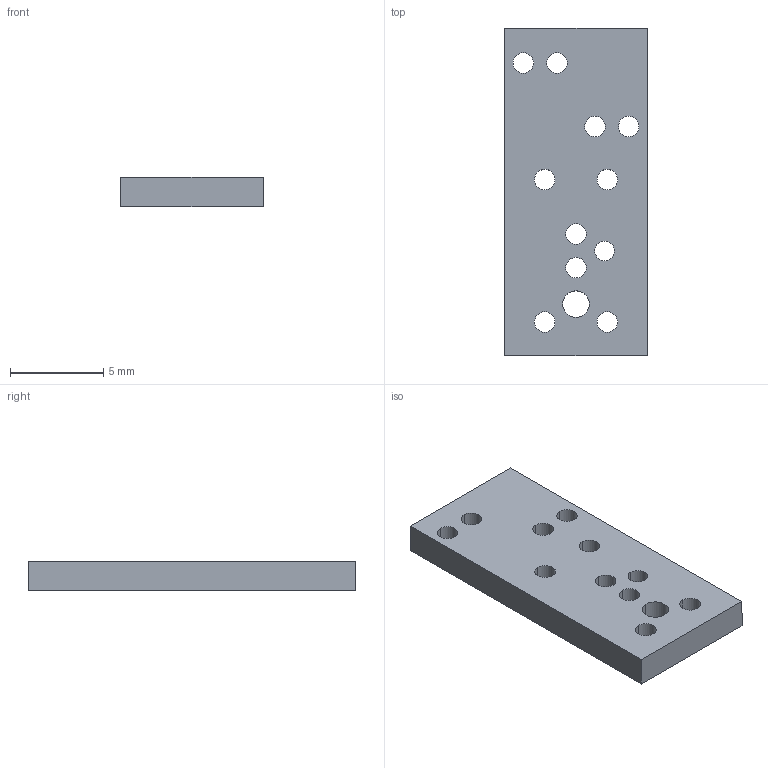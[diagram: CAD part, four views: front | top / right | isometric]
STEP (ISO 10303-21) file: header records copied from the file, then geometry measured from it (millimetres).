
FILE_DESCRIPTION(('Creo Elements/Direct Modeling STEP Export'),'2;1');
FILE_NAME('C:/Temp/JobServerData/JobServer Files/19c5547d-13ea-4273-b38f-e707a2fc4311/work/output/model.stp','2021-02-25T 8:48:27',(''),(''),'Creo Elements/Direct Modeling STEP processor for AP214 (Solid Model)','Creo Elements/Direct Modeling 20.1D 10-Oct-2020 (C) Parametric Technology GmbH','');
FILE_SCHEMA(('AUTOMOTIVE_DESIGN { 1 0 10303 214 1 1 1 1 }'));
Length unit declared in the file: millimetre
Products named in the file (2): SPE-T1-STRM-90-LED-PCB
Assembly tree (1 placements, depth 2):
  SPE-T1-STRM-90-LED-PCB
    SPE-T1-STRM-90-LED-PCB
Bounding box: 7.62 x 17.5 x 1.6 mm (x, y, z)
Volume: 194.2 mm3; surface area: 390.9 mm2
Topology: 1 solids, 1 shells, 30 faces, 84 edges, 56 vertices
Faces by surface type: cylinder 24, plane 6
Entity records: 1209 total; most frequent: ORIENTED_EDGE 168, CARTESIAN_POINT 148, DIRECTION 148, EDGE_CURVE 84, AXIS2_PLACEMENT_3D 56, VERTEX_POINT 56, EDGE_LOOP 54, VECTOR 36
